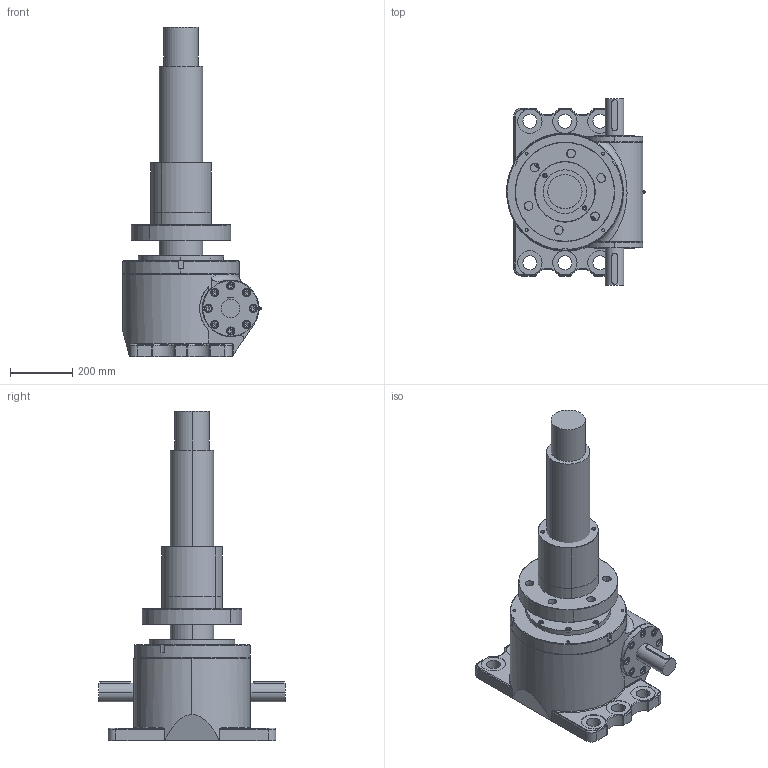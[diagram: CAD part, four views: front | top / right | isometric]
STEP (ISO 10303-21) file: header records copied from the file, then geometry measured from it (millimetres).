
FILE_DESCRIPTION(('STEP AP203'),'1');
FILE_NAME('mc75-lmn-f-1f-z-0260-0610-tr140x20-ab-o_0.stp','2023-12-20T14:57:11',('TraceParts'),('TraceParts S.A.'),'Spatial InterOp 3D',' ',' ');
FILE_SCHEMA(('CONFIG_CONTROL_DESIGN'));
Length unit declared in the file: millimetre
Products named in the file (1): 1
Bounding box: 446.3 x 600 x 1059 mm (x, y, z)
Volume: 61033304.5 mm3; surface area: 1875945.4 mm2
Topology: 47 solids, 51 shells, 1406 faces, 3458 edges, 2208 vertices
Faces by surface type: cylinder 581, plane 520, cone 210, torus 80, bspline 11, sphere 4
Entity records: 44010 total; most frequent: CARTESIAN_POINT 10533, DIRECTION 7355, ORIENTED_EDGE 6776, EDGE_CURVE 3388, AXIS2_PLACEMENT_3D 2989, VERTEX_POINT 2208, EDGE_LOOP 1618, CIRCLE 1505
